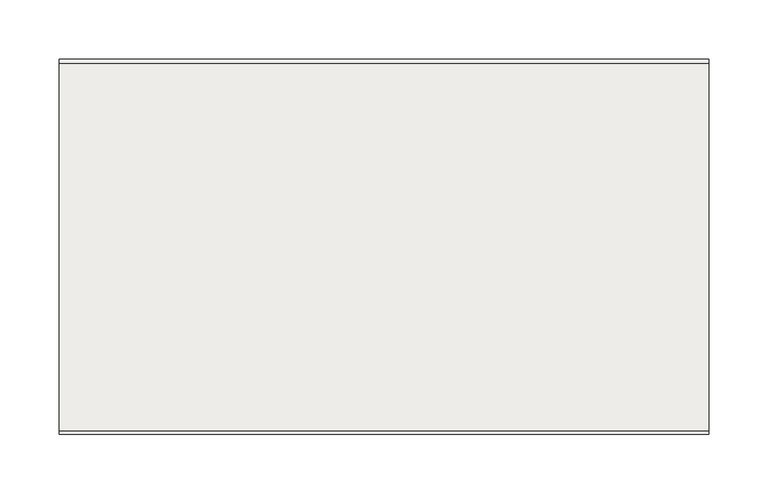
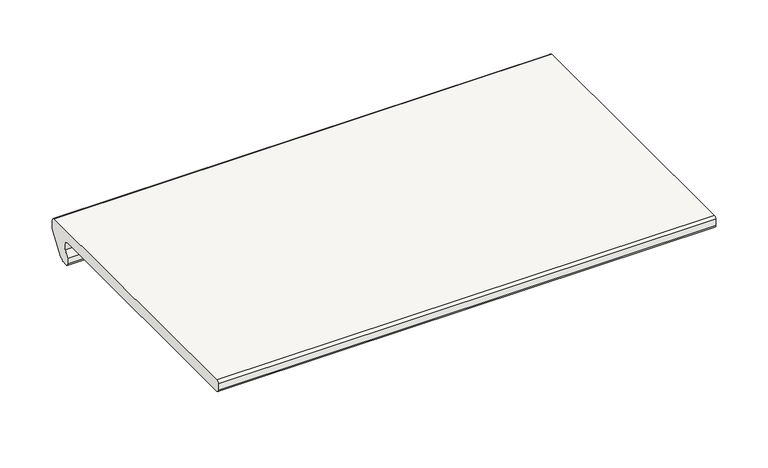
"""IFC4 building model written with IfcOpenShell, lengths in millimetres: slab geometry, ROSA GRES_J62 : Pieza J62_Tao_Beige_Anti-Slip."""

from ifc_helpers import new_model, si_unit, frame, origin, place, context, project, spatial, polyline, circle_curve, source, transform, mapped, element, save
from ifc_brep_helpers import plane_surface, cylinder_surface, revolved_surface, advanced_brep


def slab_8cf7b7cf(model_context):
    return source(origin(), model_context, "Body", "AdvancedBrep", [
        advanced_brep(
        [(548.6924039, -317.0, 2.5), (548.6924039, -314.5, 0.0), (548.6924039, -29.6363327, 0.0), (548.6924039, -24.5931401, -10.7276172), (548.6924039, -29.4411632, -18.2354274), (548.6924039, -29.4411632, -24.4017055), (548.6924039, -26.7240304, -27.1188383), (548.6924039, -20.3835268, -27.1188383), (548.6924039, -19.4823107, -26.1230058), (548.6924039, -18.5721049, -25.1262743), (548.6924039, -17.666394, -25.1262743), (548.6924039, -14.760096, -23.1626329), (548.6924039, -0.7963935, -2.84429), (548.6924039, 0.0, -0.2793766), (548.6924039, 0.0, 8.2984975), (548.6924039, -3.9876034, 12.7946269), (548.6924039, -314.2818333, 12.7946269), (548.6924039, -316.9989661, 10.0774941), (0.0, -317.0, 2.5), (0.0, -317.0, 10.0774941), (0.0, -314.2818333, 12.7946269), (0.0, -3.9876034, 12.7946269), (0.0, 0.0, 8.2984975), (0.0, 0.0, -0.2793766), (0.0, -0.7963935, -2.84429), (0.0, -14.760096, -23.1626329), (0.0, -17.666394, -25.1262743), (0.0, -18.5721049, -25.1262743), (0.0, -19.473321, -26.1221068), (0.0, -20.3835268, -27.1188383), (0.0, -26.7240304, -27.1188383), (0.0, -29.4411632, -24.4017055), (0.0, -29.4411632, -18.2354274), (0.0, -24.5931401, -10.7276172), (0.0, -29.6363327, 0.0), (0.0, -314.5, 0.0)],
        [
            (0, 1, circle_curve(frame((548.6924039, -314.5, 2.5), z_axis=(1.0, 0.0, 0.0), x_axis=(0.0, 1.0, 0.0)), 2.5)),
            (1, 2),
            (2, 3, circle_curve(frame((548.6924039, -30.1604402, -6.7956336), z_axis=(-1.0, 0.0, 0.0), x_axis=(0.0, 1.0, 0.0)), 6.8158144)),
            (3, 4),
            (4, 5),
            (5, 6, circle_curve(frame((548.6924039, -26.7240304, -24.4017055), z_axis=(1.0, 0.0, 0.0), x_axis=(0.0, 1.0, 0.0)), 2.7171328)),
            (6, 7),
            (7, 8, circle_curve(frame((548.6924039, -20.3835268, -26.2131274), z_axis=(1.0, 0.0, 0.0), x_axis=(0.0, 1.0, 0.0)), 0.9057109)),
            (8, 9, circle_curve(frame((548.6924039, -18.5721049, -26.0319852), z_axis=(-1.0, 0.0, 0.0), x_axis=(0.0, 1.0, 0.0)), 0.9057109)),
            (9, 10),
            (10, 11, circle_curve(frame((548.6924039, -18.9818017, -20.0468365), z_axis=(1.0, 0.0, 0.0), x_axis=(0.0, 1.0, 0.0)), 5.2469978)),
            (11, 12),
            (12, 13, circle_curve(frame((548.6924039, -4.5285547, -0.2793766), z_axis=(1.0, 0.0, 0.0), x_axis=(0.0, 1.0, 0.0)), 4.5285547)),
            (13, 14),
            (14, 15, circle_curve(frame((548.6924039, -4.5285547, 8.2984975), z_axis=(1.0, 0.0, 0.0), x_axis=(0.0, 1.0, 0.0)), 4.5285547)),
            (15, 16),
            (16, 17, circle_curve(frame((548.6924039, -314.2818333, 10.0774941), z_axis=(1.0, 0.0, 0.0), x_axis=(0.0, 1.0, 0.0)), 2.7171328)),
            (17, 0),
            (18, 19),
            (19, 20, circle_curve(frame((0.0, -314.2818333, 10.0774941), z_axis=(-1.0, 0.0, 0.0), x_axis=(0.0, 1.0, 0.0)), 2.7171328)),
            (20, 21),
            (21, 22, circle_curve(frame((0.0, -4.5285547, 8.2984975), z_axis=(-1.0, 0.0, 0.0), x_axis=(0.0, 1.0, 0.0)), 4.5285547)),
            (22, 23),
            (23, 24, circle_curve(frame((0.0, -4.5285547, -0.2793766), z_axis=(-1.0, 0.0, 0.0), x_axis=(0.0, 1.0, 0.0)), 4.5285547)),
            (24, 25),
            (25, 26, circle_curve(frame((0.0, -18.9818017, -20.0468365), z_axis=(-1.0, 0.0, 0.0), x_axis=(0.0, 1.0, 0.0)), 5.2469978)),
            (26, 27),
            (27, 28, circle_curve(frame((0.0, -18.5721049, -26.0319852), z_axis=(1.0, 0.0, 0.0), x_axis=(0.0, 1.0, 0.0)), 0.9057109)),
            (28, 29, circle_curve(frame((0.0, -20.3835268, -26.2131274), z_axis=(-1.0, 0.0, 0.0), x_axis=(0.0, 1.0, 0.0)), 0.9057109)),
            (29, 30),
            (30, 31, circle_curve(frame((0.0, -26.7240304, -24.4017055), z_axis=(-1.0, 0.0, 0.0), x_axis=(0.0, 1.0, 0.0)), 2.7171328)),
            (31, 32),
            (32, 33),
            (33, 34, circle_curve(frame((0.0, -30.1604402, -6.7956336), z_axis=(1.0, 0.0, 0.0), x_axis=(0.0, 1.0, 0.0)), 6.8158144)),
            (34, 35),
            (35, 18, circle_curve(frame((0.0, -314.5, 2.5), z_axis=(-1.0, 0.0, 0.0), x_axis=(0.0, 1.0, 0.0)), 2.5)),
            (1, 35),
            (34, 2),
            (0, 18),
            (17, 19),
            (16, 20),
            (15, 21),
            (14, 22),
            (13, 23),
            (12, 24),
            (11, 25),
            (10, 26),
            (9, 27),
            (8, 28),
            (7, 29),
            (6, 30),
            (5, 31),
            (4, 32),
            (3, 33),
        ],
        [
            plane_surface(frame((548.6924039, -317.0, 10.0774941), z_axis=(1.0, 0.0, 0.0), x_axis=(0.0, 0.0, 1.0))),
            plane_surface(frame((0.0, -317.0, 10.0774941), z_axis=(-1.0, 0.0, 0.0), x_axis=(0.0, 0.0, -1.0))),
            plane_surface(frame((548.6924039, -29.6363327, 0.0), z_axis=(0.0, 0.0, -1.0), x_axis=(-1.0, 0.0, 0.0))),
            cylinder_surface(frame((0.0, -314.5, 2.5), z_axis=(1.0, 0.0, 0.0), x_axis=(0.0, 1.0, 0.0)), 2.5),
            plane_surface(frame((548.6924039, -317.0, 2.5), z_axis=(0.0, -1.0, 0.0), x_axis=(-1.0, 0.0, 0.0))),
            cylinder_surface(frame((0.0, -314.2818333, 10.0774941), z_axis=(1.0, 0.0, 0.0), x_axis=(0.0, 1.0, 0.0)), 2.7171328),
            plane_surface(frame((548.6924039, -314.2818333, 12.7946269), z_axis=(0.0, 0.0, 1.0), x_axis=(-1.0, 0.0, 0.0))),
            cylinder_surface(frame((0.0, -4.5285547, 8.2984975), z_axis=(1.0, 0.0, 0.0), x_axis=(0.0, 1.0, 0.0)), 4.5285547),
            plane_surface(frame((548.6924039, 0.0, 8.2984975), z_axis=(0.0, 1.0, 0.0), x_axis=(-1.0, 0.0, 0.0))),
            cylinder_surface(frame((0.0, -4.5285547, -0.2793766), z_axis=(1.0, 0.0, 0.0), x_axis=(0.0, 1.0, 0.0)), 4.5285547),
            plane_surface(frame((548.6924039, -0.7963935, -2.84429), z_axis=(0.0, 0.8241395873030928, -0.5663867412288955), x_axis=(-1.0, 0.0, 0.0))),
            cylinder_surface(frame((0.0, -18.9818017, -20.0468365), z_axis=(1.0, 0.0, 0.0), x_axis=(0.0, 1.0, 0.0)), 5.2469978),
            plane_surface(frame((548.6924039, -17.666394, -25.1262743), z_axis=(0.0, 0.0, -1.0), x_axis=(-1.0, 0.0, 0.0))),
            revolved_surface(polyline([(0.0, -17.666394, -26.0319852), (548.6924039, -17.666394, -26.0319852)]), (0.0, -18.5721049, -26.0319852), (-1.0, 0.0, 0.0)),
            cylinder_surface(frame((0.0, -20.3835268, -26.2131274), z_axis=(1.0, 0.0, 0.0), x_axis=(0.0, 1.0, 0.0)), 0.9057109),
            plane_surface(frame((548.6924039, -20.3835268, -27.1188383), z_axis=(0.0, 0.0, -1.0), x_axis=(-1.0, 0.0, 0.0))),
            cylinder_surface(frame((0.0, -26.7240304, -24.4017055), z_axis=(1.0, 0.0, 0.0), x_axis=(0.0, 1.0, 0.0)), 2.7171328),
            plane_surface(frame((548.6924039, -29.4411632, -24.4017055), z_axis=(0.0, -1.0, 0.0), x_axis=(-1.0, 0.0, 0.0))),
            plane_surface(frame((548.6924039, -29.4411632, -18.2354274), z_axis=(0.0, -0.8400786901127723, 0.5424645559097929), x_axis=(-1.0, 0.0, 0.0))),
            revolved_surface(polyline([(0.0, -23.3446258, -6.7956336), (548.6924039, -23.3446258, -6.7956336)]), (0.0, -30.1604402, -6.7956336), (-1.0, 0.0, 0.0)),
        ],
        [
            (0, [[1, 2, 3, 4, 5, 6, 7, 8, 9, 10, 11, 12, 13, 14, 15, 16, 17, 18]]),
            (1, [[19, 20, 21, 22, 23, 24, 25, 26, 27, 28, 29, 30, 31, 32, 33, 34, 35, 36]]),
            (2, [[37, -35, 38, -2]]),
            (3, [[39, -36, -37, -1]]),
            (4, [[40, -19, -39, -18]]),
            (5, [[41, -20, -40, -17]]),
            (6, [[42, -21, -41, -16]]),
            (7, [[43, -22, -42, -15]]),
            (8, [[44, -23, -43, -14]]),
            (9, [[45, -24, -44, -13]]),
            (10, [[46, -25, -45, -12]]),
            (11, [[47, -26, -46, -11]]),
            (12, [[48, -27, -47, -10]]),
            (13, [[49, -28, -48, -9]]),
            (14, [[50, -29, -49, -8]]),
            (15, [[51, -30, -50, -7]]),
            (16, [[52, -31, -51, -6]]),
            (17, [[53, -32, -52, -5]]),
            (18, [[54, -33, -53, -4]]),
            (19, [[-38, -34, -54, -3]]),
        ],
    ),
    ])


if __name__ == "__main__":
    model = new_model("IFC4")
    model_context = context("Model", 3, world=origin())
    ifc_project = project(units=[si_unit("LENGTHUNIT", "METRE", prefix="MILLI")], contexts=[model_context])
    site = spatial("IfcSite", under=ifc_project)
    building = spatial("IfcBuilding", under=site)
    placement = place(None, origin())
    slab_shape = slab_8cf7b7cf(model_context)
    element("IfcSlab", 1, ObjectType="ROSA GRES_J62 : Pieza J62_Tao_Beige_Anti-Slip", at=placement, inside=building, context=model_context, shape_type="MappedRepresentation", body=[
        mapped(slab_shape, transform((0.0, 0.0, 0.0), x_axis=(1.0, 0.0, 0.0), y_axis=(0.0, 1.0, 0.0), z_axis=(0.0, 0.0, 1.0))),
    ])
    save(model, "model.ifc")
